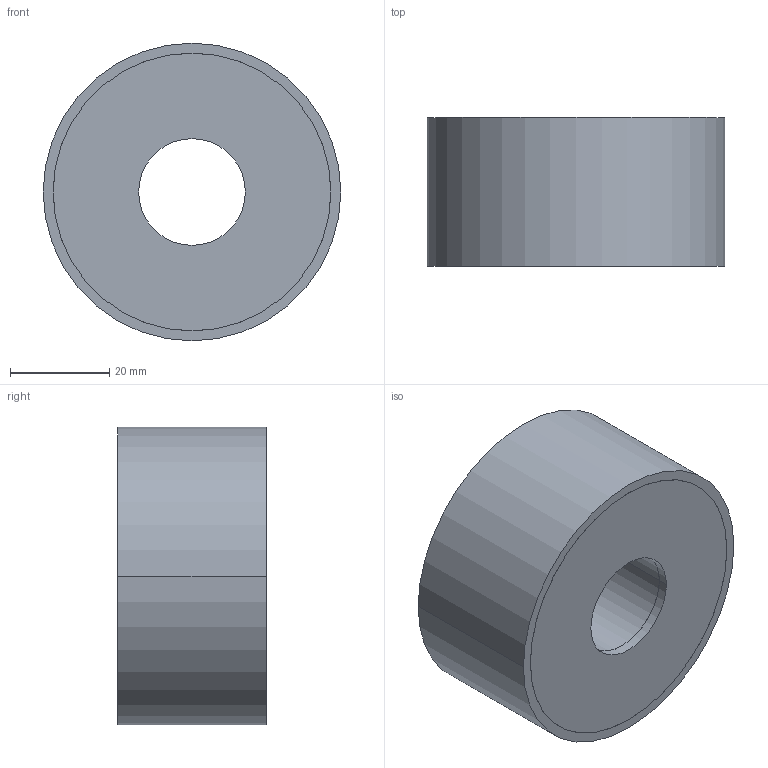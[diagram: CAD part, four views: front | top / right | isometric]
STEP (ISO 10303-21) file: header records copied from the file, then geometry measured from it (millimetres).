
FILE_DESCRIPTION (( 'STEP AP214' ), '1' );
FILE_NAME ('351-60-30-21,5-DD-70.step', '2025-07-23T10:11:57', ( '' ), ( '' ), 'SwSTEP 2.0', 'SolidWorks 2022', '' );
FILE_SCHEMA (( 'AUTOMOTIVE_DESIGN' ));
Length unit declared in the file: millimetre
Products named in the file (1): 351-60-30-21,5-DD-70
Bounding box: 60 x 30 x 60 mm (x, y, z)
Volume: 73931.4 mm3; surface area: 12619.7 mm2
Topology: 1 solids, 1 shells, 30 faces, 60 edges, 40 vertices
Faces by surface type: cylinder 20, plane 10
Entity records: 919 total; most frequent: DIRECTION 162, CARTESIAN_POINT 131, ORIENTED_EDGE 120, AXIS2_PLACEMENT_3D 71, EDGE_CURVE 60, VERTEX_POINT 40, CIRCLE 40, EDGE_LOOP 40
